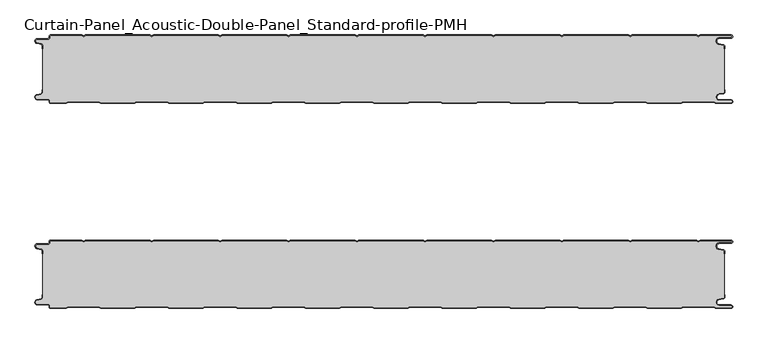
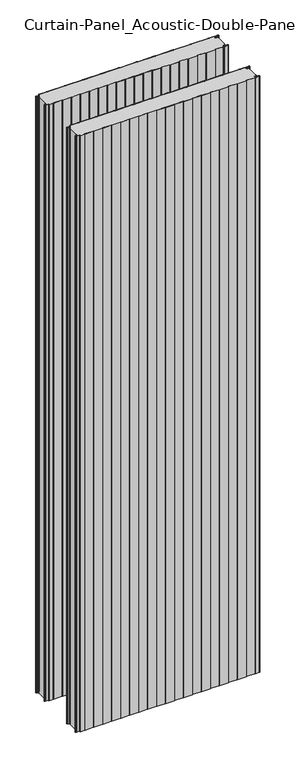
"""IFC4 building model written with IfcOpenShell, lengths in millimetres: plate geometry, Curtain-Panel_Acoustic-Double-Panel_Standard-profile-PMH : ACH_Acoustic-Double-Panel_PMH_100-200-100."""

from ifc_helpers import new_model, si_unit, point, frame_2d, origin, origin_with_axes, place, context, project, spatial, polyline, circle_curve, trimmed, segment, composite_curve, outline, extrude, source, transform, mapped, element, save


def curtain_panel_acoustic_double_panel_standard_profile_pmh_ba880325(model_context):
    return source(origin(), model_context, "Body", "SweptSolid", [
        extrude(outline(composite_curve([segment(trimmed(circle_curve(frame_2d((-502.0, -315.878557)), 2.0), [point((-500.0, -315.878557))], [point((-501.5500978, -313.9298169))], True, "CARTESIAN"), True, "CONTINUOUS"), segment(polyline([(-501.5500978, -313.9298169), (-507.7098239, -312.507732)]), True, "CONTINUOUS"), segment(trimmed(circle_curve(frame_2d((-506.9, -309.0)), 3.6), [point((-507.7098239, -312.507732))], [point((-506.9, -305.4))], False, "CARTESIAN"), True, "CONTINUOUS"), segment(polyline([(-506.9, -305.4), (-491.4, -305.4)]), True, "CONTINUOUS"), segment(trimmed(circle_curve(frame_2d((-491.4, -303.4)), 2.0), [point((-491.4, -305.4))], [point((-489.4, -303.4))], True, "CARTESIAN"), True, "CONTINUOUS"), segment(polyline([(-489.4, -303.4), (-489.4, -302.0)]), True, "CONTINUOUS"), segment(trimmed(circle_curve(frame_2d((-487.4, -302.0)), 2.0), [point((-489.4, -302.0))], [point((-487.4, -300.0))], False, "CARTESIAN"), True, "CONTINUOUS"), segment(polyline([(-487.4, -300.0), (-442.0999995, -300.0), (-439.4, -301.5588455), (-436.7000005, -300.0), (-342.0999995, -300.0), (-339.4, -301.5588455), (-336.7000005, -300.0), (-242.0999995, -300.0), (-239.4, -301.5588455), (-236.7000005, -300.0), (-142.0999995, -300.0), (-139.4, -301.5588455), (-136.7000005, -300.0), (-42.0999995, -300.0), (-39.4, -301.5588455), (-36.7000005, -300.0), (57.9000005, -300.0), (60.6, -301.5588455), (63.2999995, -300.0), (157.9000005, -300.0), (160.6, -301.5588455), (163.2999995, -300.0), (257.9000005, -300.0), (260.6, -301.5588455), (263.2999995, -300.0), (357.9000005, -300.0), (360.6, -301.5588455), (363.2999995, -300.0), (457.9000005, -300.0), (460.6, -301.5588455), (463.2999995, -300.0), (508.1, -300.0)]), True, "CONTINUOUS"), segment(trimmed(circle_curve(frame_2d((508.1, -302.5)), 2.5), [point((508.1, -300.0))], [point((508.1, -305.0))], False, "CARTESIAN"), True, "CONTINUOUS"), segment(polyline([(508.1, -305.0), (491.1, -305.0)]), True, "CONTINUOUS"), segment(trimmed(circle_curve(frame_2d((491.1, -309.0)), 4.0), [point((491.1, -305.0))], [point((490.405407, -312.939231))], True, "CARTESIAN"), True, "CONTINUOUS"), segment(polyline([(490.405407, -312.939231), (496.8514855, -314.0758491)]), True, "CONTINUOUS"), segment(trimmed(circle_curve(frame_2d((496.4, -316.6363492)), 2.6), [point((496.8514855, -314.0758491))], [point((499.0, -316.6363492))], False, "CARTESIAN"), True, "CONTINUOUS"), segment(polyline([(499.0, -316.6363492), (499.0, -320.0), (498.2, -320.0), (498.2, -316.6363492)]), True, "CONTINUOUS"), segment(trimmed(circle_curve(frame_2d((496.4, -316.6363492)), 1.8), [point((498.2, -316.6363492))], [point((496.7125669, -314.8636953))], True, "CARTESIAN"), True, "CONTINUOUS"), segment(polyline([(496.7125669, -314.8636953), (490.2664884, -313.7270772)]), True, "CONTINUOUS"), segment(trimmed(circle_curve(frame_2d((491.1, -309.0)), 4.8), [point((490.2664884, -313.7270772))], [point((491.1, -304.2))], False, "CARTESIAN"), True, "CONTINUOUS"), segment(polyline([(491.1, -304.2), (508.1, -304.2)]), True, "CONTINUOUS"), segment(trimmed(circle_curve(frame_2d((508.1, -302.5)), 1.7), [point((508.1, -304.2))], [point((508.1, -300.8))], True, "CARTESIAN"), True, "CONTINUOUS"), segment(polyline([(508.1, -300.8), (463.5143588, -300.8), (460.6, -302.482606), (457.6856412, -300.8), (363.5143588, -300.8), (360.6, -302.482606), (357.6856412, -300.8), (263.5143588, -300.8), (260.6, -302.482606), (257.6856412, -300.8), (163.5143588, -300.8), (160.6, -302.482606), (157.6856412, -300.8), (63.5143588, -300.8), (60.6, -302.482606), (57.6856412, -300.8), (-36.4856412, -300.8), (-39.4, -302.482606), (-42.3143588, -300.8), (-136.4856412, -300.8), (-139.4, -302.482606), (-142.3143588, -300.8), (-236.4856412, -300.8), (-239.4, -302.482606), (-242.3143588, -300.8), (-336.4856412, -300.8), (-339.4, -302.482606), (-342.3143588, -300.8), (-436.4856412, -300.8), (-439.4, -302.482606), (-442.3143588, -300.8), (-487.4, -300.8)]), True, "CONTINUOUS"), segment(trimmed(circle_curve(frame_2d((-487.4, -302.0)), 1.2), [point((-487.4, -300.8))], [point((-488.6, -302.0))], True, "CARTESIAN"), True, "CONTINUOUS"), segment(polyline([(-488.6, -302.0), (-488.6, -303.4)]), True, "CONTINUOUS"), segment(trimmed(circle_curve(frame_2d((-491.4, -303.4)), 2.8), [point((-488.6, -303.4))], [point((-491.4, -306.2))], False, "CARTESIAN"), True, "CONTINUOUS"), segment(polyline([(-491.4, -306.2), (-506.9, -306.2)]), True, "CONTINUOUS"), segment(trimmed(circle_curve(frame_2d((-506.9, -309.0)), 2.8), [point((-506.9, -306.2))], [point((-507.529863, -311.7282362))], True, "CARTESIAN"), True, "CONTINUOUS"), segment(polyline([(-507.529863, -311.7282362), (-501.370137, -313.150321)]), True, "CONTINUOUS"), segment(trimmed(circle_curve(frame_2d((-502.0, -315.878557)), 2.8), [point((-501.370137, -313.150321))], [point((-499.2, -315.878557))], False, "CARTESIAN"), True, "CONTINUOUS"), segment(polyline([(-499.2, -315.878557), (-499.2, -320.0), (-500.0, -320.0), (-500.0, -315.878557)]), True, "CONTINUOUS")], self_intersect=False)), origin_with_axes(), (0.0, 0.0, 1.0), 3500.0),
        extrude(outline(composite_curve([segment(polyline([(-499.2, -384.121443), (-499.2, -315.8785573)]), True, "CONTINUOUS"), segment(trimmed(circle_curve(frame_2d((-502.0, -315.8785573)), 2.8), [point((-499.2, -315.8785573))], [point((-501.370137, -313.1503212))], True, "CARTESIAN"), True, "CONTINUOUS"), segment(polyline([(-501.370137, -313.1503212), (-507.5298631, -311.7282362)]), True, "CONTINUOUS"), segment(trimmed(circle_curve(frame_2d((-506.9, -309.0)), 2.8), [point((-507.5298631, -311.7282362))], [point((-506.9, -306.2))], False, "CARTESIAN"), True, "CONTINUOUS"), segment(polyline([(-506.9, -306.2), (-491.4000001, -306.2)]), True, "CONTINUOUS"), segment(trimmed(circle_curve(frame_2d((-491.4000001, -303.4)), 2.8), [point((-491.4000001, -306.2))], [point((-488.6000001, -303.4))], True, "CARTESIAN"), True, "CONTINUOUS"), segment(polyline([(-488.6000001, -303.4), (-488.6000001, -302.0)]), True, "CONTINUOUS"), segment(trimmed(circle_curve(frame_2d((-487.4000001, -302.0)), 1.2), [point((-488.6000001, -302.0))], [point((-487.4000001, -300.8))], False, "CARTESIAN"), True, "CONTINUOUS"), segment(polyline([(-487.4000001, -300.8), (-442.3143589, -300.8), (-439.4000001, -302.482606), (-436.4856412, -300.8), (-342.3143589, -300.8), (-339.4000001, -302.482606), (-336.4856412, -300.8), (-242.3143589, -300.8), (-239.4000001, -302.482606), (-236.4856412, -300.8), (-142.3143589, -300.8), (-139.4000001, -302.482606), (-136.4856412, -300.8), (-42.3143589, -300.8), (-39.4000001, -302.482606), (-36.4856412, -300.8), (57.6856411, -300.8), (60.5999999, -302.482606), (63.5143588, -300.8), (157.6856411, -300.8), (160.5999999, -302.482606), (163.5143588, -300.8), (257.6856411, -300.8), (260.5999999, -302.482606), (263.5143588, -300.8), (357.6856411, -300.8), (360.5999999, -302.482606), (363.5143588, -300.8), (457.6856411, -300.8), (460.5999999, -302.482606), (463.5143587, -300.8), (508.1, -300.8)]), True, "CONTINUOUS"), segment(trimmed(circle_curve(frame_2d((508.1, -302.5)), 1.7), [point((508.1, -300.8))], [point((508.1, -304.2))], False, "CARTESIAN"), True, "CONTINUOUS"), segment(polyline([(508.1, -304.2), (491.1, -304.2)]), True, "CONTINUOUS"), segment(trimmed(circle_curve(frame_2d((491.1, -309.0)), 4.8), [point((491.1, -304.2))], [point((490.2664883, -313.7270771))], True, "CARTESIAN"), True, "CONTINUOUS"), segment(polyline([(490.2664883, -313.7270771), (496.7125668, -314.8636953)]), True, "CONTINUOUS"), segment(trimmed(circle_curve(frame_2d((496.4, -316.6363492)), 1.8), [point((496.7125668, -314.8636953))], [point((498.2, -316.6363492))], False, "CARTESIAN"), True, "CONTINUOUS"), segment(polyline([(498.2, -316.6363492), (498.2, -383.363652)]), True, "CONTINUOUS"), segment(trimmed(circle_curve(frame_2d((496.4, -383.363652)), 1.8), [point((498.2, -383.363652))], [point((496.7125666, -385.1363059))], False, "CARTESIAN"), True, "CONTINUOUS"), segment(polyline([(496.7125666, -385.1363059), (490.266489, -386.272923)]), True, "CONTINUOUS"), segment(trimmed(circle_curve(frame_2d((491.1, -391.0000002)), 4.7999999), [point((490.266489, -386.272923))], [point((491.1, -395.8000001))], True, "CARTESIAN"), True, "CONTINUOUS"), segment(polyline([(491.1, -395.8000001), (508.1, -395.8000001)]), True, "CONTINUOUS"), segment(trimmed(circle_curve(frame_2d((508.1, -397.5)), 1.7), [point((508.1, -395.8000001))], [point((508.1, -399.2))], False, "CARTESIAN"), True, "CONTINUOUS"), segment(polyline([(508.1, -399.2), (485.8105122, -399.2), (483.2124346, -397.7), (437.9837184, -397.7), (435.3856408, -399.2), (385.8105122, -399.2), (383.2124346, -397.7), (337.9837184, -397.7), (335.3856408, -399.2), (285.8105122, -399.2), (283.2124346, -397.7), (237.9837184, -397.7), (235.3856408, -399.2), (185.8105122, -399.2), (183.2124346, -397.7), (137.9837184, -397.7), (135.3856408, -399.2), (85.8105122, -399.2), (83.2124346, -397.7), (37.9837184, -397.7), (35.3856408, -399.2), (-14.1894878, -399.2), (-16.7875654, -397.7), (-62.0162816, -397.7), (-64.6143592, -399.2), (-114.1894878, -399.2), (-116.7875654, -397.7), (-162.0162816, -397.7), (-164.6143592, -399.2), (-214.1894878, -399.2), (-216.7875654, -397.7), (-262.0162816, -397.7), (-264.6143592, -399.2), (-314.1894878, -399.2), (-316.7875654, -397.7), (-362.0162816, -397.7), (-364.6143592, -399.2), (-414.1894878, -399.2), (-416.7875654, -397.7), (-462.0162816, -397.7), (-464.6143592, -399.2), (-487.4, -399.2)]), True, "CONTINUOUS"), segment(trimmed(circle_curve(frame_2d((-487.4, -398.0)), 1.2), [point((-487.4, -399.2))], [point((-488.6, -398.0))], False, "CARTESIAN"), True, "CONTINUOUS"), segment(polyline([(-488.6, -398.0), (-488.6, -396.5999998)]), True, "CONTINUOUS"), segment(trimmed(circle_curve(frame_2d((-491.4, -396.5999998)), 2.8), [point((-488.6, -396.5999998))], [point((-491.4, -393.7999998))], True, "CARTESIAN"), True, "CONTINUOUS"), segment(polyline([(-491.4, -393.7999998), (-506.9, -393.7999998)]), True, "CONTINUOUS"), segment(trimmed(circle_curve(frame_2d((-506.9, -391.0)), 2.7999998), [point((-506.9, -393.7999998))], [point((-507.529863, -388.271764))], False, "CARTESIAN"), True, "CONTINUOUS"), segment(polyline([(-507.529863, -388.271764), (-501.370137, -386.8496792)]), True, "CONTINUOUS"), segment(trimmed(circle_curve(frame_2d((-502.0, -384.121443)), 2.8), [point((-501.370137, -386.8496792))], [point((-499.2, -384.121443))], True, "CARTESIAN"), True, "CONTINUOUS")], self_intersect=False)), origin_with_axes(), (0.0, 0.0, 1.0), 3500.0),
        extrude(outline(composite_curve([segment(trimmed(circle_curve(frame_2d((-487.4, -398.0)), 2.0), [point((-487.4, -400.0))], [point((-489.4, -398.0))], False, "CARTESIAN"), True, "CONTINUOUS"), segment(polyline([(-489.4, -398.0), (-489.4, -396.6)]), True, "CONTINUOUS"), segment(trimmed(circle_curve(frame_2d((-491.4, -396.6)), 2.0), [point((-489.4, -396.6))], [point((-491.4, -394.6))], True, "CARTESIAN"), True, "CONTINUOUS"), segment(polyline([(-491.4, -394.6), (-506.9, -394.6)]), True, "CONTINUOUS"), segment(trimmed(circle_curve(frame_2d((-506.9, -391.0)), 3.6), [point((-506.9, -394.6))], [point((-507.7098239, -387.4922678))], False, "CARTESIAN"), True, "CONTINUOUS"), segment(polyline([(-507.7098239, -387.4922678), (-501.5500979, -386.070183)]), True, "CONTINUOUS"), segment(trimmed(circle_curve(frame_2d((-502.0, -384.121443)), 2.0), [point((-501.5500979, -386.070183))], [point((-500.0, -384.121443))], True, "CARTESIAN"), True, "CONTINUOUS"), segment(polyline([(-500.0, -384.121443), (-500.0, -380.0), (-499.2, -380.0), (-499.2, -384.121443)]), True, "CONTINUOUS"), segment(trimmed(circle_curve(frame_2d((-502.0, -384.121443)), 2.8), [point((-499.2, -384.121443))], [point((-501.370137, -386.8496792))], False, "CARTESIAN"), True, "CONTINUOUS"), segment(polyline([(-501.370137, -386.8496792), (-507.529863, -388.271764)]), True, "CONTINUOUS"), segment(trimmed(circle_curve(frame_2d((-506.9, -391.0)), 2.8), [point((-507.529863, -388.271764))], [point((-506.9, -393.8))], True, "CARTESIAN"), True, "CONTINUOUS"), segment(polyline([(-506.9, -393.8), (-491.4, -393.8)]), True, "CONTINUOUS"), segment(trimmed(circle_curve(frame_2d((-491.4, -396.6)), 2.8), [point((-491.4, -393.8))], [point((-488.6, -396.6))], False, "CARTESIAN"), True, "CONTINUOUS"), segment(polyline([(-488.6, -396.6), (-488.6, -398.0)]), True, "CONTINUOUS"), segment(trimmed(circle_curve(frame_2d((-487.4, -398.0)), 1.2), [point((-488.6, -398.0))], [point((-487.4, -399.2))], True, "CARTESIAN"), True, "CONTINUOUS"), segment(polyline([(-487.4, -399.2), (-464.6143592, -399.2), (-462.0162816, -397.7), (-416.7875654, -397.7), (-414.1894878, -399.2), (-364.6143592, -399.2), (-362.0162816, -397.7), (-316.7875654, -397.7), (-314.1894878, -399.2), (-264.6143592, -399.2), (-262.0162816, -397.7), (-216.7875654, -397.7), (-214.1894878, -399.2), (-164.6143592, -399.2), (-162.0162816, -397.7), (-116.7875654, -397.7), (-114.1894878, -399.2), (-64.6143592, -399.2), (-62.0162816, -397.7), (-16.7875654, -397.7), (-14.1894878, -399.2), (35.3856408, -399.2), (37.9837184, -397.7), (83.2124346, -397.7), (85.8105122, -399.2), (135.3856408, -399.2), (137.9837184, -397.7), (183.2124346, -397.7), (185.8105122, -399.2), (235.3856408, -399.2), (237.9837184, -397.7), (283.2124346, -397.7), (285.8105122, -399.2), (335.3856408, -399.2), (337.9837184, -397.7), (383.2124346, -397.7), (385.8105122, -399.2), (435.3856408, -399.2), (437.9837184, -397.7), (483.2124346, -397.7), (485.8105122, -399.2), (508.1, -399.2)]), True, "CONTINUOUS"), segment(trimmed(circle_curve(frame_2d((508.1, -397.5)), 1.7), [point((508.1, -399.2))], [point((508.1, -395.8))], True, "CARTESIAN"), True, "CONTINUOUS"), segment(polyline([(508.1, -395.8), (491.1, -395.8)]), True, "CONTINUOUS"), segment(trimmed(circle_curve(frame_2d((491.1, -391.0)), 4.8), [point((491.1, -395.8))], [point((490.266489, -386.2729227))], False, "CARTESIAN"), True, "CONTINUOUS"), segment(polyline([(490.266489, -386.2729227), (496.7125666, -385.1363058)]), True, "CONTINUOUS"), segment(trimmed(circle_curve(frame_2d((496.4, -383.363652)), 1.8), [point((496.7125666, -385.1363058))], [point((498.2, -383.363652))], True, "CARTESIAN"), True, "CONTINUOUS"), segment(polyline([(498.2, -383.363652), (498.2, -380.0), (499.0, -380.0), (499.0, -383.363652)]), True, "CONTINUOUS"), segment(trimmed(circle_curve(frame_2d((496.4, -383.363652)), 2.6), [point((499.0, -383.363652))], [point((496.8514851, -385.9241522))], False, "CARTESIAN"), True, "CONTINUOUS"), segment(polyline([(496.8514851, -385.9241522), (490.4054075, -387.0607691)]), True, "CONTINUOUS"), segment(trimmed(circle_curve(frame_2d((491.1, -391.0)), 4.0), [point((490.4054075, -387.0607691))], [point((491.1, -395.0))], True, "CARTESIAN"), True, "CONTINUOUS"), segment(polyline([(491.1, -395.0), (508.1, -395.0)]), True, "CONTINUOUS"), segment(trimmed(circle_curve(frame_2d((508.1, -397.5)), 2.5), [point((508.1, -395.0))], [point((508.1, -400.0))], False, "CARTESIAN"), True, "CONTINUOUS"), segment(polyline([(508.1, -400.0), (485.5961529, -400.0), (482.9980753, -398.5), (438.1980777, -398.5), (435.6000001, -400.0), (385.5961529, -400.0), (382.9980753, -398.5), (338.1980777, -398.5), (335.6000001, -400.0), (285.5961529, -400.0), (282.9980753, -398.5), (238.1980777, -398.5), (235.6000001, -400.0), (185.5961529, -400.0), (182.9980753, -398.5), (138.1980777, -398.5), (135.6000001, -400.0), (85.5961529, -400.0), (82.9980753, -398.5), (38.1980777, -398.5), (35.6000001, -400.0), (-14.4038471, -400.0), (-17.0019247, -398.5), (-61.8019223, -398.5), (-64.3999999, -400.0), (-114.4038471, -400.0), (-117.0019247, -398.5), (-161.8019223, -398.5), (-164.3999999, -400.0), (-214.4038471, -400.0), (-217.0019247, -398.5), (-261.8019223, -398.5), (-264.3999999, -400.0), (-314.4038471, -400.0), (-317.0019247, -398.5), (-361.8019223, -398.5), (-364.3999999, -400.0), (-414.4038471, -400.0), (-417.0019247, -398.5), (-461.8019223, -398.5), (-464.3999999, -400.0), (-487.4, -400.0)]), True, "CONTINUOUS")], self_intersect=False)), origin_with_axes(), (0.0, 0.0, 1.0), 3500.0),
        extrude(outline(composite_curve([segment(trimmed(circle_curve(frame_2d((-502.0, -15.878557)), 2.0), [point((-500.0, -15.878557))], [point((-501.5500978, -13.9298169))], True, "CARTESIAN"), True, "CONTINUOUS"), segment(polyline([(-501.5500978, -13.9298169), (-507.7098239, -12.507732)]), True, "CONTINUOUS"), segment(trimmed(circle_curve(frame_2d((-506.9, -9.0)), 3.6), [point((-507.7098239, -12.507732))], [point((-506.9, -5.4))], False, "CARTESIAN"), True, "CONTINUOUS"), segment(polyline([(-506.9, -5.4), (-491.4, -5.4)]), True, "CONTINUOUS"), segment(trimmed(circle_curve(frame_2d((-491.4, -3.4)), 2.0), [point((-491.4, -5.4))], [point((-489.4, -3.4))], True, "CARTESIAN"), True, "CONTINUOUS"), segment(polyline([(-489.4, -3.4), (-489.4, -2.0)]), True, "CONTINUOUS"), segment(trimmed(circle_curve(frame_2d((-487.4, -2.0)), 2.0), [point((-489.4, -2.0))], [point((-487.4, 0.0))], False, "CARTESIAN"), True, "CONTINUOUS"), segment(polyline([(-487.4, 0.0), (-442.0999995, 0.0), (-439.4, -1.5588455), (-436.7000005, 0.0), (-342.0999995, 0.0), (-339.4, -1.5588455), (-336.7000005, 0.0), (-242.0999995, 0.0), (-239.4, -1.5588455), (-236.7000005, 0.0), (-142.0999995, 0.0), (-139.4, -1.5588455), (-136.7000005, 0.0), (-42.0999995, 0.0), (-39.4, -1.5588455), (-36.7000005, 0.0), (57.9000005, 0.0), (60.6, -1.5588455), (63.2999995, 0.0), (157.9000005, 0.0), (160.6, -1.5588455), (163.2999995, 0.0), (257.9000005, 0.0), (260.6, -1.5588455), (263.2999995, 0.0), (357.9000005, 0.0), (360.6, -1.5588455), (363.2999995, 0.0), (457.9000005, 0.0), (460.6, -1.5588455), (463.2999995, 0.0), (508.1, 0.0)]), True, "CONTINUOUS"), segment(trimmed(circle_curve(frame_2d((508.1, -2.5)), 2.5), [point((508.1, 0.0))], [point((508.1, -5.0))], False, "CARTESIAN"), True, "CONTINUOUS"), segment(polyline([(508.1, -5.0), (491.1, -5.0)]), True, "CONTINUOUS"), segment(trimmed(circle_curve(frame_2d((491.1, -9.0)), 4.0), [point((491.1, -5.0))], [point((490.405407, -12.939231))], True, "CARTESIAN"), True, "CONTINUOUS"), segment(polyline([(490.405407, -12.939231), (496.8514855, -14.0758491)]), True, "CONTINUOUS"), segment(trimmed(circle_curve(frame_2d((496.4, -16.6363492)), 2.6), [point((496.8514855, -14.0758491))], [point((499.0, -16.6363492))], False, "CARTESIAN"), True, "CONTINUOUS"), segment(polyline([(499.0, -16.6363492), (499.0, -20.0), (498.2, -20.0), (498.2, -16.6363492)]), True, "CONTINUOUS"), segment(trimmed(circle_curve(frame_2d((496.4, -16.6363492)), 1.8), [point((498.2, -16.6363492))], [point((496.7125669, -14.8636953))], True, "CARTESIAN"), True, "CONTINUOUS"), segment(polyline([(496.7125669, -14.8636953), (490.2664884, -13.7270772)]), True, "CONTINUOUS"), segment(trimmed(circle_curve(frame_2d((491.1, -9.0)), 4.8), [point((490.2664884, -13.7270772))], [point((491.1, -4.2))], False, "CARTESIAN"), True, "CONTINUOUS"), segment(polyline([(491.1, -4.2), (508.1, -4.2)]), True, "CONTINUOUS"), segment(trimmed(circle_curve(frame_2d((508.1, -2.5)), 1.7), [point((508.1, -4.2))], [point((508.1, -0.8))], True, "CARTESIAN"), True, "CONTINUOUS"), segment(polyline([(508.1, -0.8), (463.5143588, -0.8), (460.6, -2.482606), (457.6856412, -0.8), (363.5143588, -0.8), (360.6, -2.482606), (357.6856412, -0.8), (263.5143588, -0.8), (260.6, -2.482606), (257.6856412, -0.8), (163.5143588, -0.8), (160.6, -2.482606), (157.6856412, -0.8), (63.5143588, -0.8), (60.6, -2.482606), (57.6856412, -0.8), (-36.4856412, -0.8), (-39.4, -2.482606), (-42.3143588, -0.8), (-136.4856412, -0.8), (-139.4, -2.482606), (-142.3143588, -0.8), (-236.4856412, -0.8), (-239.4, -2.482606), (-242.3143588, -0.8), (-336.4856412, -0.8), (-339.4, -2.482606), (-342.3143588, -0.8), (-436.4856412, -0.8), (-439.4, -2.482606), (-442.3143588, -0.8), (-487.4, -0.8)]), True, "CONTINUOUS"), segment(trimmed(circle_curve(frame_2d((-487.4, -2.0)), 1.2), [point((-487.4, -0.8))], [point((-488.6, -2.0))], True, "CARTESIAN"), True, "CONTINUOUS"), segment(polyline([(-488.6, -2.0), (-488.6, -3.4)]), True, "CONTINUOUS"), segment(trimmed(circle_curve(frame_2d((-491.4, -3.4)), 2.8), [point((-488.6, -3.4))], [point((-491.4, -6.2))], False, "CARTESIAN"), True, "CONTINUOUS"), segment(polyline([(-491.4, -6.2), (-506.9, -6.2)]), True, "CONTINUOUS"), segment(trimmed(circle_curve(frame_2d((-506.9, -9.0)), 2.8), [point((-506.9, -6.2))], [point((-507.529863, -11.7282362))], True, "CARTESIAN"), True, "CONTINUOUS"), segment(polyline([(-507.529863, -11.7282362), (-501.370137, -13.150321)]), True, "CONTINUOUS"), segment(trimmed(circle_curve(frame_2d((-502.0, -15.878557)), 2.8), [point((-501.370137, -13.150321))], [point((-499.2, -15.878557))], False, "CARTESIAN"), True, "CONTINUOUS"), segment(polyline([(-499.2, -15.878557), (-499.2, -20.0), (-500.0, -20.0), (-500.0, -15.878557)]), True, "CONTINUOUS")], self_intersect=False)), origin_with_axes(), (0.0, 0.0, 1.0), 3500.0),
        extrude(outline(composite_curve([segment(polyline([(-499.2, -84.121443), (-499.2, -15.8785573)]), True, "CONTINUOUS"), segment(trimmed(circle_curve(frame_2d((-502.0, -15.8785573)), 2.8), [point((-499.2, -15.8785573))], [point((-501.370137, -13.1503212))], True, "CARTESIAN"), True, "CONTINUOUS"), segment(polyline([(-501.370137, -13.1503212), (-507.5298631, -11.7282362)]), True, "CONTINUOUS"), segment(trimmed(circle_curve(frame_2d((-506.9, -9.0)), 2.8), [point((-507.5298631, -11.7282362))], [point((-506.9, -6.2))], False, "CARTESIAN"), True, "CONTINUOUS"), segment(polyline([(-506.9, -6.2), (-491.4000001, -6.2)]), True, "CONTINUOUS"), segment(trimmed(circle_curve(frame_2d((-491.4000001, -3.4)), 2.8), [point((-491.4000001, -6.2))], [point((-488.6000001, -3.4))], True, "CARTESIAN"), True, "CONTINUOUS"), segment(polyline([(-488.6000001, -3.4), (-488.6000001, -2.0)]), True, "CONTINUOUS"), segment(trimmed(circle_curve(frame_2d((-487.4000001, -2.0)), 1.2), [point((-488.6000001, -2.0))], [point((-487.4000001, -0.8))], False, "CARTESIAN"), True, "CONTINUOUS"), segment(polyline([(-487.4000001, -0.8), (-442.3143589, -0.8), (-439.4000001, -2.482606), (-436.4856412, -0.8), (-342.3143589, -0.8), (-339.4000001, -2.482606), (-336.4856412, -0.8), (-242.3143589, -0.8), (-239.4000001, -2.482606), (-236.4856412, -0.8), (-142.3143589, -0.8), (-139.4000001, -2.482606), (-136.4856412, -0.8), (-42.3143589, -0.8), (-39.4000001, -2.482606), (-36.4856412, -0.8), (57.6856411, -0.8), (60.5999999, -2.482606), (63.5143588, -0.8), (157.6856411, -0.8), (160.5999999, -2.482606), (163.5143588, -0.8), (257.6856411, -0.8), (260.5999999, -2.482606), (263.5143588, -0.8), (357.6856411, -0.8), (360.5999999, -2.482606), (363.5143588, -0.8), (457.6856411, -0.8), (460.5999999, -2.482606), (463.5143587, -0.8), (508.1, -0.8)]), True, "CONTINUOUS"), segment(trimmed(circle_curve(frame_2d((508.1, -2.5)), 1.7), [point((508.1, -0.8))], [point((508.1, -4.2))], False, "CARTESIAN"), True, "CONTINUOUS"), segment(polyline([(508.1, -4.2), (491.1, -4.2)]), True, "CONTINUOUS"), segment(trimmed(circle_curve(frame_2d((491.1, -9.0)), 4.8), [point((491.1, -4.2))], [point((490.2664883, -13.7270771))], True, "CARTESIAN"), True, "CONTINUOUS"), segment(polyline([(490.2664883, -13.7270771), (496.7125668, -14.8636953)]), True, "CONTINUOUS"), segment(trimmed(circle_curve(frame_2d((496.4, -16.6363492)), 1.8), [point((496.7125668, -14.8636953))], [point((498.2, -16.6363492))], False, "CARTESIAN"), True, "CONTINUOUS"), segment(polyline([(498.2, -16.6363492), (498.2, -83.363652)]), True, "CONTINUOUS"), segment(trimmed(circle_curve(frame_2d((496.4, -83.363652)), 1.8), [point((498.2, -83.363652))], [point((496.7125666, -85.1363059))], False, "CARTESIAN"), True, "CONTINUOUS"), segment(polyline([(496.7125666, -85.1363059), (490.266489, -86.272923)]), True, "CONTINUOUS"), segment(trimmed(circle_curve(frame_2d((491.1, -91.0000002)), 4.7999999), [point((490.266489, -86.272923))], [point((491.1, -95.8000001))], True, "CARTESIAN"), True, "CONTINUOUS"), segment(polyline([(491.1, -95.8000001), (508.1, -95.8000001)]), True, "CONTINUOUS"), segment(trimmed(circle_curve(frame_2d((508.1, -97.5)), 1.7), [point((508.1, -95.8000001))], [point((508.1, -99.2))], False, "CARTESIAN"), True, "CONTINUOUS"), segment(polyline([(508.1, -99.2), (485.8105122, -99.2), (483.2124346, -97.7), (437.9837184, -97.7), (435.3856408, -99.2), (385.8105122, -99.2), (383.2124346, -97.7), (337.9837184, -97.7), (335.3856408, -99.2), (285.8105122, -99.2), (283.2124346, -97.7), (237.9837184, -97.7), (235.3856408, -99.2), (185.8105122, -99.2), (183.2124346, -97.7), (137.9837184, -97.7), (135.3856408, -99.2), (85.8105122, -99.2), (83.2124346, -97.7), (37.9837184, -97.7), (35.3856408, -99.2), (-14.1894878, -99.2), (-16.7875654, -97.7), (-62.0162816, -97.7), (-64.6143592, -99.2), (-114.1894878, -99.2), (-116.7875654, -97.7), (-162.0162816, -97.7), (-164.6143592, -99.2), (-214.1894878, -99.2), (-216.7875654, -97.7), (-262.0162816, -97.7), (-264.6143592, -99.2), (-314.1894878, -99.2), (-316.7875654, -97.7), (-362.0162816, -97.7), (-364.6143592, -99.2), (-414.1894878, -99.2), (-416.7875654, -97.7), (-462.0162816, -97.7), (-464.6143592, -99.2), (-487.4, -99.2)]), True, "CONTINUOUS"), segment(trimmed(circle_curve(frame_2d((-487.4, -98.0)), 1.2), [point((-487.4, -99.2))], [point((-488.6, -98.0))], False, "CARTESIAN"), True, "CONTINUOUS"), segment(polyline([(-488.6, -98.0), (-488.6, -96.5999998)]), True, "CONTINUOUS"), segment(trimmed(circle_curve(frame_2d((-491.4, -96.5999998)), 2.8), [point((-488.6, -96.5999998))], [point((-491.4, -93.7999998))], True, "CARTESIAN"), True, "CONTINUOUS"), segment(polyline([(-491.4, -93.7999998), (-506.9, -93.7999998)]), True, "CONTINUOUS"), segment(trimmed(circle_curve(frame_2d((-506.9, -91.0)), 2.7999998), [point((-506.9, -93.7999998))], [point((-507.529863, -88.271764))], False, "CARTESIAN"), True, "CONTINUOUS"), segment(polyline([(-507.529863, -88.271764), (-501.370137, -86.8496792)]), True, "CONTINUOUS"), segment(trimmed(circle_curve(frame_2d((-502.0, -84.121443)), 2.8), [point((-501.370137, -86.8496792))], [point((-499.2, -84.121443))], True, "CARTESIAN"), True, "CONTINUOUS")], self_intersect=False)), origin_with_axes(), (0.0, 0.0, 1.0), 3500.0),
        extrude(outline(composite_curve([segment(trimmed(circle_curve(frame_2d((-487.4, -98.0)), 2.0), [point((-487.4, -100.0))], [point((-489.4, -98.0))], False, "CARTESIAN"), True, "CONTINUOUS"), segment(polyline([(-489.4, -98.0), (-489.4, -96.6)]), True, "CONTINUOUS"), segment(trimmed(circle_curve(frame_2d((-491.4, -96.6)), 2.0), [point((-489.4, -96.6))], [point((-491.4, -94.6))], True, "CARTESIAN"), True, "CONTINUOUS"), segment(polyline([(-491.4, -94.6), (-506.9, -94.6)]), True, "CONTINUOUS"), segment(trimmed(circle_curve(frame_2d((-506.9, -91.0)), 3.6), [point((-506.9, -94.6))], [point((-507.7098239, -87.4922678))], False, "CARTESIAN"), True, "CONTINUOUS"), segment(polyline([(-507.7098239, -87.4922678), (-501.5500979, -86.070183)]), True, "CONTINUOUS"), segment(trimmed(circle_curve(frame_2d((-502.0, -84.121443)), 2.0), [point((-501.5500979, -86.070183))], [point((-500.0, -84.121443))], True, "CARTESIAN"), True, "CONTINUOUS"), segment(polyline([(-500.0, -84.121443), (-500.0, -80.0), (-499.2, -80.0), (-499.2, -84.121443)]), True, "CONTINUOUS"), segment(trimmed(circle_curve(frame_2d((-502.0, -84.121443)), 2.8), [point((-499.2, -84.121443))], [point((-501.370137, -86.8496792))], False, "CARTESIAN"), True, "CONTINUOUS"), segment(polyline([(-501.370137, -86.8496792), (-507.529863, -88.271764)]), True, "CONTINUOUS"), segment(trimmed(circle_curve(frame_2d((-506.9, -91.0)), 2.8), [point((-507.529863, -88.271764))], [point((-506.9, -93.8))], True, "CARTESIAN"), True, "CONTINUOUS"), segment(polyline([(-506.9, -93.8), (-491.4, -93.8)]), True, "CONTINUOUS"), segment(trimmed(circle_curve(frame_2d((-491.4, -96.6)), 2.8), [point((-491.4, -93.8))], [point((-488.6, -96.6))], False, "CARTESIAN"), True, "CONTINUOUS"), segment(polyline([(-488.6, -96.6), (-488.6, -98.0)]), True, "CONTINUOUS"), segment(trimmed(circle_curve(frame_2d((-487.4, -98.0)), 1.2), [point((-488.6, -98.0))], [point((-487.4, -99.2))], True, "CARTESIAN"), True, "CONTINUOUS"), segment(polyline([(-487.4, -99.2), (-464.6143592, -99.2), (-462.0162816, -97.7), (-416.7875654, -97.7), (-414.1894878, -99.2), (-364.6143592, -99.2), (-362.0162816, -97.7), (-316.7875654, -97.7), (-314.1894878, -99.2), (-264.6143592, -99.2), (-262.0162816, -97.7), (-216.7875654, -97.7), (-214.1894878, -99.2), (-164.6143592, -99.2), (-162.0162816, -97.7), (-116.7875654, -97.7), (-114.1894878, -99.2), (-64.6143592, -99.2), (-62.0162816, -97.7), (-16.7875654, -97.7), (-14.1894878, -99.2), (35.3856408, -99.2), (37.9837184, -97.7), (83.2124346, -97.7), (85.8105122, -99.2), (135.3856408, -99.2), (137.9837184, -97.7), (183.2124346, -97.7), (185.8105122, -99.2), (235.3856408, -99.2), (237.9837184, -97.7), (283.2124346, -97.7), (285.8105122, -99.2), (335.3856408, -99.2), (337.9837184, -97.7), (383.2124346, -97.7), (385.8105122, -99.2), (435.3856408, -99.2), (437.9837184, -97.7), (483.2124346, -97.7), (485.8105122, -99.2), (508.1, -99.2)]), True, "CONTINUOUS"), segment(trimmed(circle_curve(frame_2d((508.1, -97.5)), 1.7), [point((508.1, -99.2))], [point((508.1, -95.8))], True, "CARTESIAN"), True, "CONTINUOUS"), segment(polyline([(508.1, -95.8), (491.1, -95.8)]), True, "CONTINUOUS"), segment(trimmed(circle_curve(frame_2d((491.1, -91.0)), 4.8), [point((491.1, -95.8))], [point((490.266489, -86.2729227))], False, "CARTESIAN"), True, "CONTINUOUS"), segment(polyline([(490.266489, -86.2729227), (496.7125666, -85.1363058)]), True, "CONTINUOUS"), segment(trimmed(circle_curve(frame_2d((496.4, -83.363652)), 1.8), [point((496.7125666, -85.1363058))], [point((498.2, -83.363652))], True, "CARTESIAN"), True, "CONTINUOUS"), segment(polyline([(498.2, -83.363652), (498.2, -80.0), (499.0, -80.0), (499.0, -83.363652)]), True, "CONTINUOUS"), segment(trimmed(circle_curve(frame_2d((496.4, -83.363652)), 2.6), [point((499.0, -83.363652))], [point((496.8514851, -85.9241522))], False, "CARTESIAN"), True, "CONTINUOUS"), segment(polyline([(496.8514851, -85.9241522), (490.4054075, -87.0607691)]), True, "CONTINUOUS"), segment(trimmed(circle_curve(frame_2d((491.1, -91.0)), 4.0), [point((490.4054075, -87.0607691))], [point((491.1, -95.0))], True, "CARTESIAN"), True, "CONTINUOUS"), segment(polyline([(491.1, -95.0), (508.1, -95.0)]), True, "CONTINUOUS"), segment(trimmed(circle_curve(frame_2d((508.1, -97.5)), 2.5), [point((508.1, -95.0))], [point((508.1, -100.0))], False, "CARTESIAN"), True, "CONTINUOUS"), segment(polyline([(508.1, -100.0), (485.5961529, -100.0), (482.9980753, -98.5), (438.1980777, -98.5), (435.6000001, -100.0), (385.5961529, -100.0), (382.9980753, -98.5), (338.1980777, -98.5), (335.6000001, -100.0), (285.5961529, -100.0), (282.9980753, -98.5), (238.1980777, -98.5), (235.6000001, -100.0), (185.5961529, -100.0), (182.9980753, -98.5), (138.1980777, -98.5), (135.6000001, -100.0), (85.5961529, -100.0), (82.9980753, -98.5), (38.1980777, -98.5), (35.6000001, -100.0), (-14.4038471, -100.0), (-17.0019247, -98.5), (-61.8019223, -98.5), (-64.3999999, -100.0), (-114.4038471, -100.0), (-117.0019247, -98.5), (-161.8019223, -98.5), (-164.3999999, -100.0), (-214.4038471, -100.0), (-217.0019247, -98.5), (-261.8019223, -98.5), (-264.3999999, -100.0), (-314.4038471, -100.0), (-317.0019247, -98.5), (-361.8019223, -98.5), (-364.3999999, -100.0), (-414.4038471, -100.0), (-417.0019247, -98.5), (-461.8019223, -98.5), (-464.3999999, -100.0), (-487.4, -100.0)]), True, "CONTINUOUS")], self_intersect=False)), origin_with_axes(), (0.0, 0.0, 1.0), 3500.0),
    ])


if __name__ == "__main__":
    model = new_model("IFC4")
    model_context = context("Model", 3, world=origin())
    ifc_project = project(units=[si_unit("LENGTHUNIT", "METRE", prefix="MILLI")], contexts=[model_context])
    site = spatial("IfcSite", under=ifc_project)
    building = spatial("IfcBuilding", under=site)
    placement = place(None, origin())
    curtain_panel_acoustic_double_panel_standard_profile_pmh_shape = curtain_panel_acoustic_double_panel_standard_profile_pmh_ba880325(model_context)
    element("IfcPlate", 1, ObjectType="Curtain-Panel_Acoustic-Double-Panel_Standard-profile-PMH : ACH_Acoustic-Double-Panel_PMH_100-200-100", at=placement, inside=building, context=model_context, shape_type="MappedRepresentation", body=[
        mapped(curtain_panel_acoustic_double_panel_standard_profile_pmh_shape, transform((0.0, 0.0, 0.0), x_axis=(1.0, 0.0, 0.0), y_axis=(0.0, 1.0, 0.0), z_axis=(0.0, 0.0, 1.0))),
    ])
    save(model, "model.ifc")
